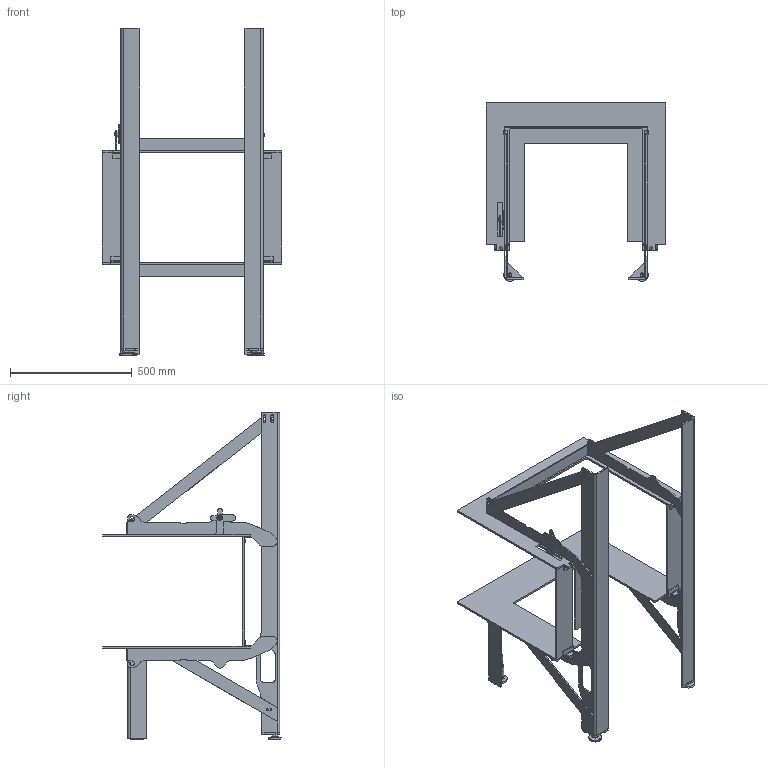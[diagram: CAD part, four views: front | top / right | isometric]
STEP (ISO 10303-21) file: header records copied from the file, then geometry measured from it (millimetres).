
FILE_DESCRIPTION(/* description */ (''),/* implementation_level */ '2;1');
FILE_NAME(/* name */ 'C:\ADSK_DM_WS\CAD_3D\03 Geraete\RIII 45x56x46\Zeichnungen\RIII 45x56x46 Einbaurahmen freistehend CAD Planung defriten 2017-00071 190919.stp',/* time_stamp */ '2019-09-19T11:25:02+02:00',/* author */ ('cpi'),/* organization */ (''),/* preprocessor_version */ 'ST-DEVELOPER v17.2',/* originating_system */ 'Autodesk Inventor 2019',/* authorisation */ '');
FILE_SCHEMA (('AUTOMOTIVE_DESIGN { 1 0 10303 214 3 1 1 }'));
Length unit declared in the file: millimetre
Products named in the file (1): 2019-02767
Bounding box: 735 x 731.45 x 1343.5 mm (x, y, z)
Volume: 8439213.5 mm3; surface area: 2744654.5 mm2
Topology: 5 solids, 5 shells, 1027 faces, 2922 edges, 1886 vertices
Faces by surface type: plane 555, cylinder 404, cone 68
Full cylindrical faces by diameter (mm): 10 x5, 10.21 x2, 10.4 x1, 10.5 x15, 16 x6, 17 x2, 20 x2, 25 x2, 30 x4
Entity records: 34912 total; most frequent: CARTESIAN_POINT 6540, ORIENTED_EDGE 5844, DIRECTION 5826, EDGE_CURVE 2922, AXIS2_PLACEMENT_3D 2044, VERTEX_POINT 1886, LINE 1738, VECTOR 1738
